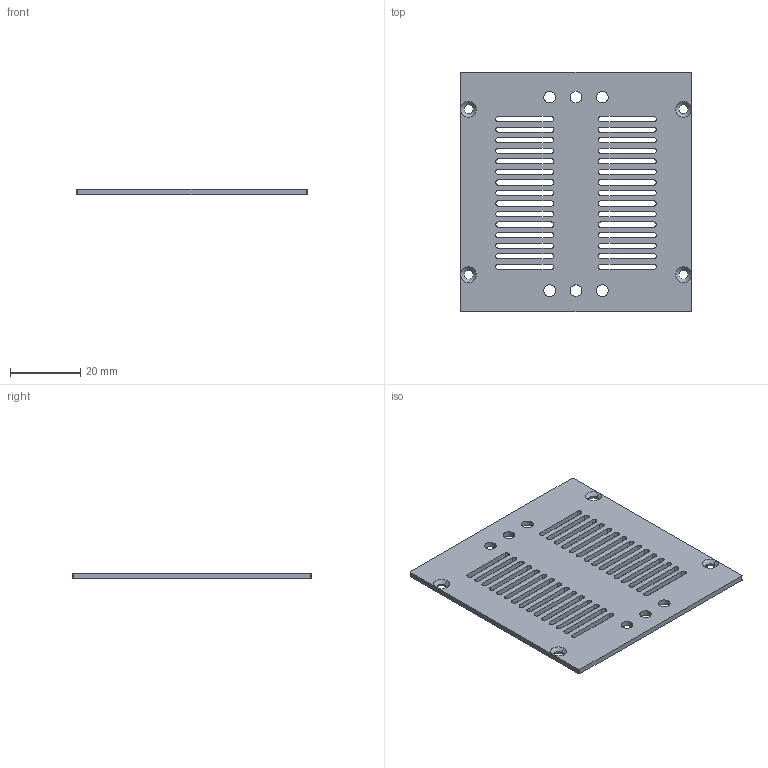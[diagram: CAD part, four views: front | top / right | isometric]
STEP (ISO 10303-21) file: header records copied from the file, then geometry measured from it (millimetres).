
FILE_DESCRIPTION (( 'STEP AP214' ), '1' );
FILE_NAME ('菁裔.STEP', '2024-06-03T02:40:49', ( '' ), ( '' ), 'SwSTEP 2.0', 'SolidWorks 2021', '' );
FILE_SCHEMA (( 'AUTOMOTIVE_DESIGN' ));
Length unit declared in the file: millimetre
Products named in the file (1): 菁裔
Bounding box: 65.65 x 68.21 x 1.5 mm (x, y, z)
Volume: 5497.7 mm3; surface area: 9446.4 mm2
Topology: 1 solids, 1 shells, 188 faces, 550 edges, 364 vertices
Faces by surface type: cylinder 114, plane 66, cone 8
Entity records: 6663 total; most frequent: DIRECTION 1164, CARTESIAN_POINT 1103, ORIENTED_EDGE 1100, EDGE_CURVE 550, AXIS2_PLACEMENT_3D 425, VERTEX_POINT 364, LINE 314, VECTOR 314
